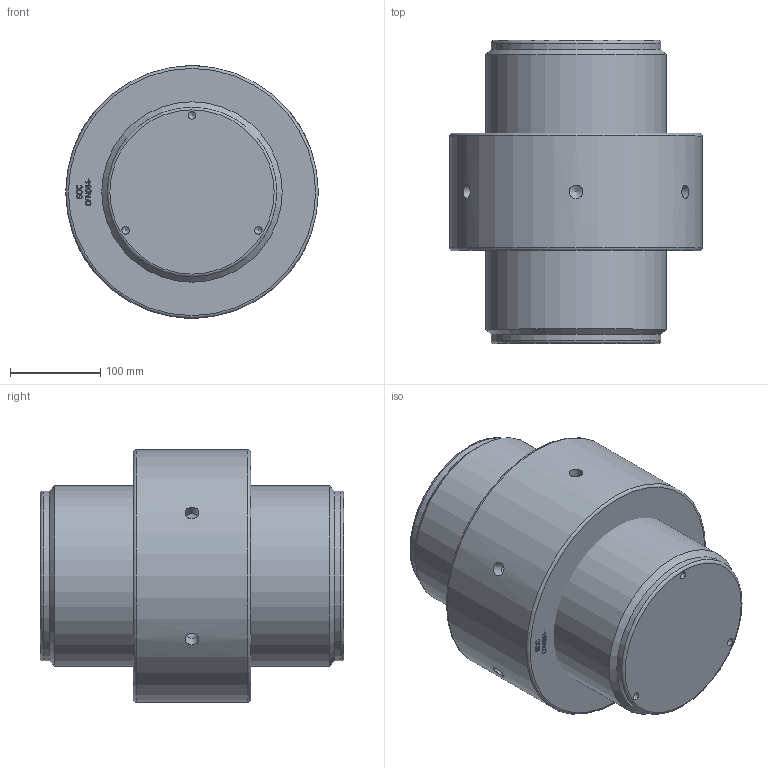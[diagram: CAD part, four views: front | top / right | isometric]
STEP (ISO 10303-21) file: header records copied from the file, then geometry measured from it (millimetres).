
FILE_DESCRIPTION(/* description */ (''),/* implementation_level */ '2;1');
FILE_NAME(/* name */ 'F:\Clienti LS\Redaelli\CYT\CYT\ARRNGEMENT\CYT064 61 061 0.stp',/* time_stamp */ '2021-05-09T08:48:09+02:00',/* author */ ('ranca'),/* organization */ (''),/* preprocessor_version */ 'ST-DEVELOPER v16.13',/* originating_system */ 'Autodesk Inventor 2018',/* authorisation */ '');
FILE_SCHEMA (('AUTOMOTIVE_DESIGN { 1 0 10303 214 3 1 1 }'));
Length unit declared in the file: millimetre
Products named in the file (3): CYT012-61-061-0; CYT012-61-061-0_1; CYT012-61-061-0_DADO
Assembly tree (2 placements, depth 2):
  CYT012-61-061-0
    CYT012-61-061-0_1
    CYT012-61-061-0_DADO
Bounding box: 280 x 336 x 280 mm (x, y, z)
Volume: 14699796.3 mm3; surface area: 529438.2 mm2
Topology: 2 solids, 2 shells, 354 faces, 965 edges, 642 vertices
Faces by surface type: bspline 197, plane 128, cylinder 14, cone 11, torus 4
Full cylindrical faces by diameter (mm): 8.376 x3, 15 x6, 188 x2, 191.34 x1, 200 x1, 280 x1
Entity records: 12149 total; most frequent: CARTESIAN_POINT 4676, ORIENTED_EDGE 1840, EDGE_CURVE 920, DIRECTION 864, VERTEX_POINT 626, LINE 488, VECTOR 488, EDGE_LOOP 412
